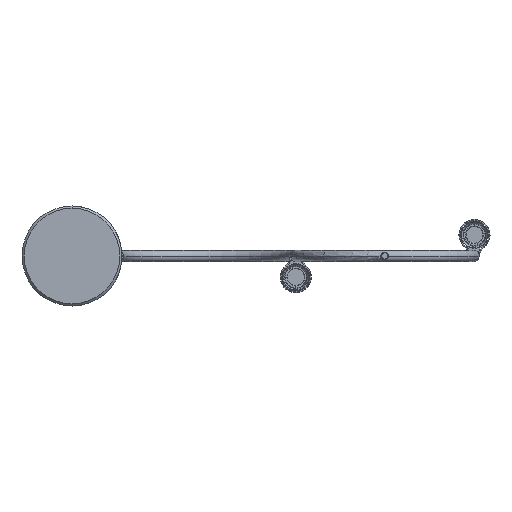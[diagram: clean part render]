
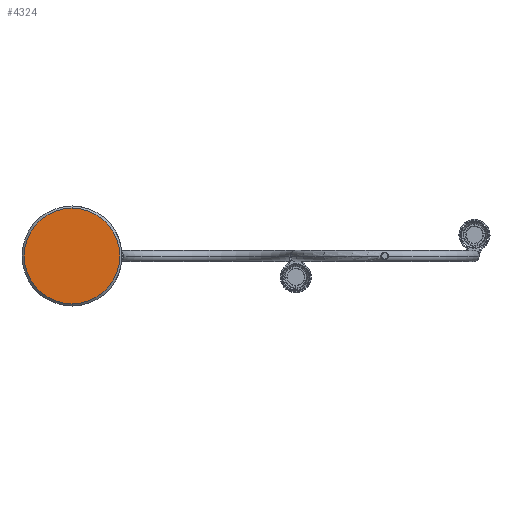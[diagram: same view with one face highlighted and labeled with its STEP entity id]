
A CAD part, front view. The second image highlights one B-rep face of the part: STEP entity #4324.
In plain terms, the highlighted planar face has unit normal (0, -1, 0).
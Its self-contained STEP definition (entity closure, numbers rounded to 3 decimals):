
#82 = CARTESIAN_POINT ( 'NONE',  ( 0., 0., 0. ) ) ;
#1087 = CARTESIAN_POINT ( 'NONE',  ( 0., 0., 43. ) ) ;
#1622 = AXIS2_PLACEMENT_3D ( 'NONE', #9526, #6273, #17221 ) ;
#1782 = AXIS2_PLACEMENT_3D ( 'NONE', #82, #19333, #9776 ) ;
#1897 = EDGE_LOOP ( 'NONE', ( #8387, #8200 ) ) ;
#1987 = CARTESIAN_POINT ( 'NONE',  ( 0., 0., -43. ) ) ;
#2078 = CARTESIAN_POINT ( 'NONE',  ( 0., 0., 0. ) ) ;
#3354 = EDGE_CURVE ( 'NONE', #10491, #15047, #17975, .T. ) ;
#3505 = CIRCLE ( 'NONE', #11747, 43. ) ;
#3717 = EDGE_CURVE ( 'NONE', #15047, #10491, #3505, .T. ) ;
#4324 = ADVANCED_FACE ( 'NONE', ( #11200 ), #15889, .F. ) ;
#6273 = DIRECTION ( 'NONE',  ( 0., -1., 0. ) ) ;
#8200 = ORIENTED_EDGE ( 'NONE', *, *, #3717, .T. ) ;
#8387 = ORIENTED_EDGE ( 'NONE', *, *, #3354, .T. ) ;
#9526 = CARTESIAN_POINT ( 'NONE',  ( 0., 0., 0. ) ) ;
#9776 = DIRECTION ( 'NONE',  ( 0., 0., 1. ) ) ;
#10491 = VERTEX_POINT ( 'NONE', #1087 ) ;
#11200 = FACE_OUTER_BOUND ( 'NONE', #1897, .T. ) ;
#11747 = AXIS2_PLACEMENT_3D ( 'NONE', #2078, #18065, #13364 ) ;
#13364 = DIRECTION ( 'NONE',  ( 0., 0., 1. ) ) ;
#15047 = VERTEX_POINT ( 'NONE', #1987 ) ;
#15889 = PLANE ( 'NONE',  #1782 ) ;
#17221 = DIRECTION ( 'NONE',  ( 0., 0., 1. ) ) ;
#17975 = CIRCLE ( 'NONE', #1622, 43. ) ;
#18065 = DIRECTION ( 'NONE',  ( 0., -1., 0. ) ) ;
#19333 = DIRECTION ( 'NONE',  ( 0., 1., 0. ) ) ;
